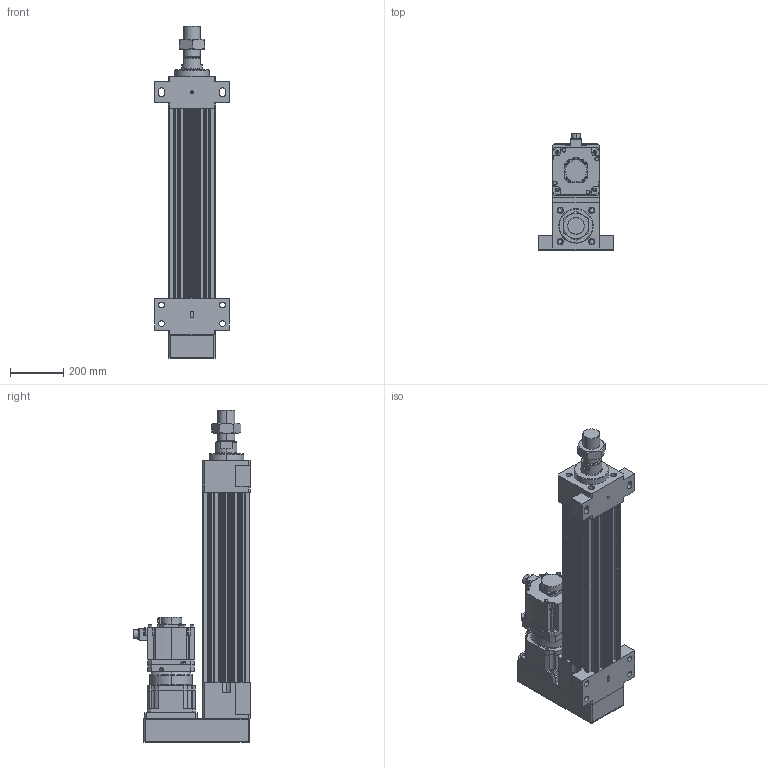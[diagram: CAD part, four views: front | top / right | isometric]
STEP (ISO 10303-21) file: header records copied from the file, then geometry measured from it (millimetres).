
FILE_DESCRIPTION (( 'STEP AP203' ), '1' );
FILE_NAME ('HES180HS-P400-W050G00-M-FFB.STEP', '2023-02-01T06:40:12', ( 'tms' ), ( '' ), 'SwSTEP 2.0', 'SolidWorks 2013', '' );
FILE_SCHEMA (( 'CONFIG_CONTROL_DESIGN' ));
Length unit declared in the file: millimetre
Products named in the file (9): M64X2.0P; HES180-P400-G180-FFB; P0403600401; P1301600001; HG-SR502; AB1801; AB180-003[HG-SR702B]; HES180HS-P400-W050G00-M-FFB; HES180 ROD M ST400
Assembly tree (8 placements, depth 3):
  HES180HS-P400-W050G00-M-FFB
    HES180-P400-G180-FFB
    HES180 ROD M ST400
    M64X2.0P
    AB180-003[HG-SR702B]
      AB1801
      P1301600001
      P0403600401
    HG-SR502
Bounding box: 280 x 438.85 x 1252 mm (x, y, z)
Volume: 28820541.3 mm3; surface area: 2478292.2 mm2
Topology: 4 solids, 19 shells, 1446 faces, 3761 edges, 2443 vertices
Faces by surface type: cylinder 668, plane 567, cone 144, bspline 63, torus 4
Entity records: 53114 total; most frequent: CARTESIAN_POINT 16078, DIRECTION 7777, ORIENTED_EDGE 7426, EDGE_CURVE 3737, AXIS2_PLACEMENT_3D 2922, VERTEX_POINT 2443, LINE 1933, VECTOR 1933
